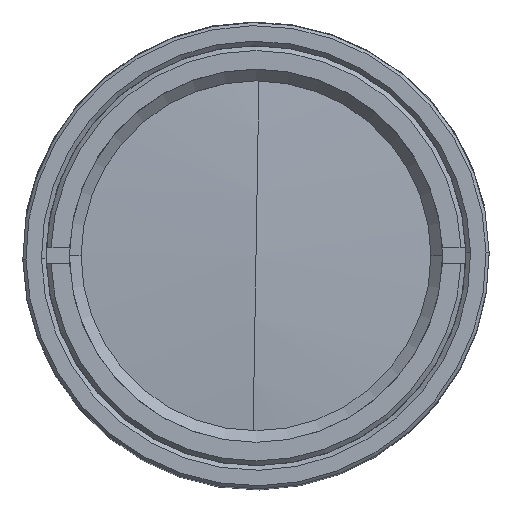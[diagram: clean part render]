
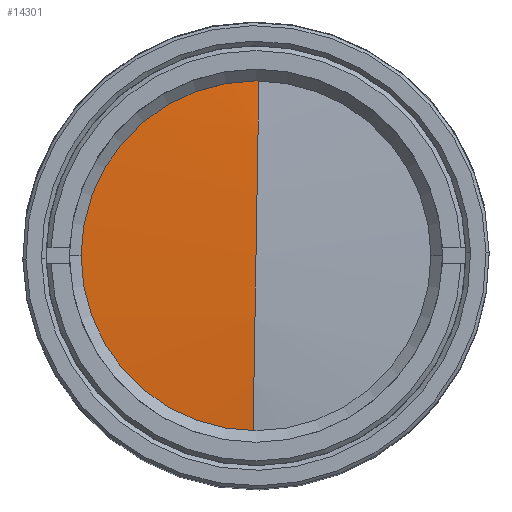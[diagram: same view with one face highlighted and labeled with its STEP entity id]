
A CAD part, top view. The second image highlights one B-rep face of the part: STEP entity #14301.
In plain terms, the highlighted spherical face has radius 132.5 mm.
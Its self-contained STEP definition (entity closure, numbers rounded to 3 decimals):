
#13867 = VERTEX_POINT('',#13868);
#13868 = CARTESIAN_POINT('',(0.198,12.028,
    142.857));
#13876 = CONICAL_SURFACE('',#13877,12.03,0.785);
#13877 = AXIS2_PLACEMENT_3D('',#13878,#13879,#13880);
#13878 = CARTESIAN_POINT('',(0.,0.,142.857));
#13879 = DIRECTION('',(0.,0.,-1.));
#13880 = DIRECTION('',(-1.,0.016,0.));
#13888 = SPHERICAL_SURFACE('',#13889,132.5);
#13889 = AXIS2_PLACEMENT_3D('',#13890,#13891,#13892);
#13890 = CARTESIAN_POINT('',(0.,0.,10.904));
#13891 = DIRECTION('',(-1.,0.016,0.));
#13892 = DIRECTION('',(0.016,1.,0.));
#13938 = CONICAL_SURFACE('',#13939,12.03,0.785);
#13939 = AXIS2_PLACEMENT_3D('',#13940,#13941,#13942);
#13940 = CARTESIAN_POINT('',(0.,0.,142.857));
#13941 = DIRECTION('',(0.,0.,-1.));
#13942 = DIRECTION('',(-1.,0.016,0.));
#13980 = VERTEX_POINT('',#13981);
#13981 = CARTESIAN_POINT('',(-12.028,0.198,
    142.857));
#14002 = EDGE_CURVE('',#13867,#13980,#14003,.T.);
#14003 = SURFACE_CURVE('',#14004,(#14009,#14016),.PCURVE_S1.);
#14004 = CIRCLE('',#14005,12.03);
#14005 = AXIS2_PLACEMENT_3D('',#14006,#14007,#14008);
#14006 = CARTESIAN_POINT('',(0.,0.,142.857));
#14007 = DIRECTION('',(0.,-0.,1.));
#14008 = DIRECTION('',(-1.,0.016,0.));
#14009 = PCURVE('',#13876,#14010);
#14010 = DEFINITIONAL_REPRESENTATION('',(#14011),#14015);
#14011 = LINE('',#14012,#14013);
#14012 = CARTESIAN_POINT('',(6.283,0.));
#14013 = VECTOR('',#14014,1.);
#14014 = DIRECTION('',(-1.,0.));
#14015 = ( GEOMETRIC_REPRESENTATION_CONTEXT(2) 
PARAMETRIC_REPRESENTATION_CONTEXT() REPRESENTATION_CONTEXT('',''
  ) );
#14016 = PCURVE('',#14017,#14022);
#14017 = SPHERICAL_SURFACE('',#14018,132.5);
#14018 = AXIS2_PLACEMENT_3D('',#14019,#14020,#14021);
#14019 = CARTESIAN_POINT('',(0.,0.,10.904));
#14020 = DIRECTION('',(-1.,0.016,0.));
#14021 = DIRECTION('',(0.016,1.,0.));
#14022 = DEFINITIONAL_REPRESENTATION('',(#14023),#14049);
#14023 = B_SPLINE_CURVE_WITH_KNOTS('',3,(#14024,#14025,#14026,#14027,
    #14028,#14029,#14030,#14031,#14032,#14033,#14034,#14035,#14036,
    #14037,#14038,#14039,#14040,#14041,#14042,#14043,#14044,#14045,
    #14046,#14047,#14048),.UNSPECIFIED.,.F.,.F.,(4,1,1,1,1,1,1,1,1,1,1,1
    ,1,1,1,1,1,1,1,1,1,1,4),(4.712,4.784,
    4.855,4.927,4.998,5.069,
    5.141,5.212,5.284,5.355,
    5.426,5.498,5.569,5.641,
    5.712,5.783,5.855,5.926,
    5.998,6.069,6.14,6.212,
    6.283),.QUASI_UNIFORM_KNOTS.);
#14024 = CARTESIAN_POINT('',(4.803,0.));
#14025 = CARTESIAN_POINT('',(4.803,0.002));
#14026 = CARTESIAN_POINT('',(4.803,0.006));
#14027 = CARTESIAN_POINT('',(4.802,0.013));
#14028 = CARTESIAN_POINT('',(4.801,0.019));
#14029 = CARTESIAN_POINT('',(4.8,0.026));
#14030 = CARTESIAN_POINT('',(4.798,0.032));
#14031 = CARTESIAN_POINT('',(4.795,0.038));
#14032 = CARTESIAN_POINT('',(4.792,0.044));
#14033 = CARTESIAN_POINT('',(4.789,0.049));
#14034 = CARTESIAN_POINT('',(4.785,0.054));
#14035 = CARTESIAN_POINT('',(4.781,0.06));
#14036 = CARTESIAN_POINT('',(4.777,0.064));
#14037 = CARTESIAN_POINT('',(4.772,0.069));
#14038 = CARTESIAN_POINT('',(4.767,0.073));
#14039 = CARTESIAN_POINT('',(4.762,0.077));
#14040 = CARTESIAN_POINT('',(4.756,0.08));
#14041 = CARTESIAN_POINT('',(4.75,0.083));
#14042 = CARTESIAN_POINT('',(4.744,0.085));
#14043 = CARTESIAN_POINT('',(4.738,0.087));
#14044 = CARTESIAN_POINT('',(4.732,0.089));
#14045 = CARTESIAN_POINT('',(4.725,0.09));
#14046 = CARTESIAN_POINT('',(4.719,0.091));
#14047 = CARTESIAN_POINT('',(4.715,0.091));
#14048 = CARTESIAN_POINT('',(4.712,0.091));
#14049 = ( GEOMETRIC_REPRESENTATION_CONTEXT(2) 
PARAMETRIC_REPRESENTATION_CONTEXT() REPRESENTATION_CONTEXT('',''
  ) );
#14301 = ADVANCED_FACE('',(#14302),#14017,.T.);
#14302 = FACE_BOUND('',#14303,.T.);
#14303 = EDGE_LOOP('',(#14304,#14305,#14351,#14375));
#14304 = ORIENTED_EDGE('',*,*,#14002,.T.);
#14305 = ORIENTED_EDGE('',*,*,#14306,.T.);
#14306 = EDGE_CURVE('',#13980,#14307,#14309,.T.);
#14307 = VERTEX_POINT('',#14308);
#14308 = CARTESIAN_POINT('',(-0.198,-12.028,
    142.857));
#14309 = SURFACE_CURVE('',#14310,(#14315,#14344),.PCURVE_S1.);
#14310 = CIRCLE('',#14311,12.03);
#14311 = AXIS2_PLACEMENT_3D('',#14312,#14313,#14314);
#14312 = CARTESIAN_POINT('',(0.,0.,142.857));
#14313 = DIRECTION('',(0.,-0.,1.));
#14314 = DIRECTION('',(-1.,0.016,0.));
#14315 = PCURVE('',#14017,#14316);
#14316 = DEFINITIONAL_REPRESENTATION('',(#14317),#14343);
#14317 = B_SPLINE_CURVE_WITH_KNOTS('',3,(#14318,#14319,#14320,#14321,
    #14322,#14323,#14324,#14325,#14326,#14327,#14328,#14329,#14330,
    #14331,#14332,#14333,#14334,#14335,#14336,#14337,#14338,#14339,
    #14340,#14341,#14342),.UNSPECIFIED.,.F.,.F.,(4,1,1,1,1,1,1,1,1,1,1,1
    ,1,1,1,1,1,1,1,1,1,1,4),(0.,0.071,0.143,
    0.214,0.286,0.357,0.428,
    0.5,0.571,0.643,0.714,
    0.785,0.857,0.928,1.,
    1.071,1.142,1.214,1.285,
    1.357,1.428,1.499,1.571),
  .QUASI_UNIFORM_KNOTS.);
#14318 = CARTESIAN_POINT('',(4.712,0.091));
#14319 = CARTESIAN_POINT('',(4.71,0.091));
#14320 = CARTESIAN_POINT('',(4.706,0.091));
#14321 = CARTESIAN_POINT('',(4.699,0.09));
#14322 = CARTESIAN_POINT('',(4.693,0.089));
#14323 = CARTESIAN_POINT('',(4.687,0.087));
#14324 = CARTESIAN_POINT('',(4.681,0.085));
#14325 = CARTESIAN_POINT('',(4.675,0.083));
#14326 = CARTESIAN_POINT('',(4.669,0.08));
#14327 = CARTESIAN_POINT('',(4.663,0.077));
#14328 = CARTESIAN_POINT('',(4.658,0.073));
#14329 = CARTESIAN_POINT('',(4.653,0.069));
#14330 = CARTESIAN_POINT('',(4.648,0.064));
#14331 = CARTESIAN_POINT('',(4.644,0.06));
#14332 = CARTESIAN_POINT('',(4.639,0.054));
#14333 = CARTESIAN_POINT('',(4.636,0.049));
#14334 = CARTESIAN_POINT('',(4.632,0.044));
#14335 = CARTESIAN_POINT('',(4.63,0.038));
#14336 = CARTESIAN_POINT('',(4.627,0.032));
#14337 = CARTESIAN_POINT('',(4.625,0.026));
#14338 = CARTESIAN_POINT('',(4.623,0.019));
#14339 = CARTESIAN_POINT('',(4.622,0.013));
#14340 = CARTESIAN_POINT('',(4.622,0.006));
#14341 = CARTESIAN_POINT('',(4.621,0.002));
#14342 = CARTESIAN_POINT('',(4.621,0.));
#14343 = ( GEOMETRIC_REPRESENTATION_CONTEXT(2) 
PARAMETRIC_REPRESENTATION_CONTEXT() REPRESENTATION_CONTEXT('',''
  ) );
#14344 = PCURVE('',#13938,#14345);
#14345 = DEFINITIONAL_REPRESENTATION('',(#14346),#14350);
#14346 = LINE('',#14347,#14348);
#14347 = CARTESIAN_POINT('',(6.283,0.));
#14348 = VECTOR('',#14349,1.);
#14349 = DIRECTION('',(-1.,0.));
#14350 = ( GEOMETRIC_REPRESENTATION_CONTEXT(2) 
PARAMETRIC_REPRESENTATION_CONTEXT() REPRESENTATION_CONTEXT('',''
  ) );
#14351 = ORIENTED_EDGE('',*,*,#14352,.T.);
#14352 = EDGE_CURVE('',#14307,#14353,#14355,.T.);
#14353 = VERTEX_POINT('',#14354);
#14354 = CARTESIAN_POINT('',(0.,0.,
    143.404));
#14355 = SURFACE_CURVE('',#14356,(#14361,#14368),.PCURVE_S1.);
#14356 = CIRCLE('',#14357,132.5);
#14357 = AXIS2_PLACEMENT_3D('',#14358,#14359,#14360);
#14358 = CARTESIAN_POINT('',(0.,0.,10.904));
#14359 = DIRECTION('',(-1.,0.016,0.));
#14360 = DIRECTION('',(-0.016,-1.,0.));
#14361 = PCURVE('',#14017,#14362);
#14362 = DEFINITIONAL_REPRESENTATION('',(#14363),#14367);
#14363 = LINE('',#14364,#14365);
#14364 = CARTESIAN_POINT('',(3.142,0.));
#14365 = VECTOR('',#14366,1.);
#14366 = DIRECTION('',(1.,0.));
#14367 = ( GEOMETRIC_REPRESENTATION_CONTEXT(2) 
PARAMETRIC_REPRESENTATION_CONTEXT() REPRESENTATION_CONTEXT('',''
  ) );
#14368 = PCURVE('',#13888,#14369);
#14369 = DEFINITIONAL_REPRESENTATION('',(#14370),#14374);
#14370 = LINE('',#14371,#14372);
#14371 = CARTESIAN_POINT('',(3.142,0.));
#14372 = VECTOR('',#14373,1.);
#14373 = DIRECTION('',(1.,0.));
#14374 = ( GEOMETRIC_REPRESENTATION_CONTEXT(2) 
PARAMETRIC_REPRESENTATION_CONTEXT() REPRESENTATION_CONTEXT('',''
  ) );
#14375 = ORIENTED_EDGE('',*,*,#14376,.F.);
#14376 = EDGE_CURVE('',#13867,#14353,#14377,.T.);
#14377 = SURFACE_CURVE('',#14378,(#14383,#14390),.PCURVE_S1.);
#14378 = CIRCLE('',#14379,132.5);
#14379 = AXIS2_PLACEMENT_3D('',#14380,#14381,#14382);
#14380 = CARTESIAN_POINT('',(0.,0.,10.904));
#14381 = DIRECTION('',(1.,-0.016,0.));
#14382 = DIRECTION('',(0.016,1.,0.));
#14383 = PCURVE('',#14017,#14384);
#14384 = DEFINITIONAL_REPRESENTATION('',(#14385),#14389);
#14385 = LINE('',#14386,#14387);
#14386 = CARTESIAN_POINT('',(6.283,0.));
#14387 = VECTOR('',#14388,1.);
#14388 = DIRECTION('',(-1.,0.));
#14389 = ( GEOMETRIC_REPRESENTATION_CONTEXT(2) 
PARAMETRIC_REPRESENTATION_CONTEXT() REPRESENTATION_CONTEXT('',''
  ) );
#14390 = PCURVE('',#13888,#14391);
#14391 = DEFINITIONAL_REPRESENTATION('',(#14392),#14396);
#14392 = LINE('',#14393,#14394);
#14393 = CARTESIAN_POINT('',(6.283,0.));
#14394 = VECTOR('',#14395,1.);
#14395 = DIRECTION('',(-1.,0.));
#14396 = ( GEOMETRIC_REPRESENTATION_CONTEXT(2) 
PARAMETRIC_REPRESENTATION_CONTEXT() REPRESENTATION_CONTEXT('',''
  ) );
